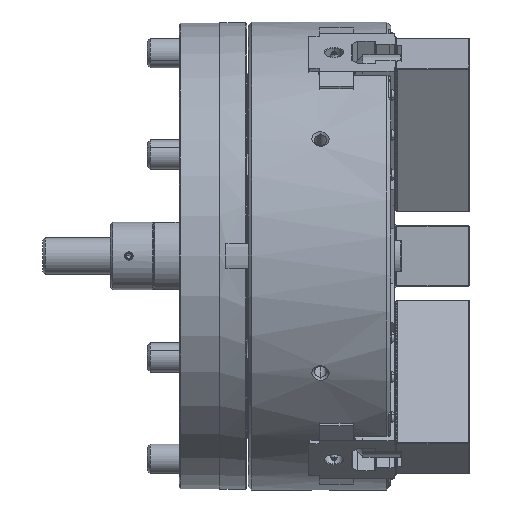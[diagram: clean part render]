
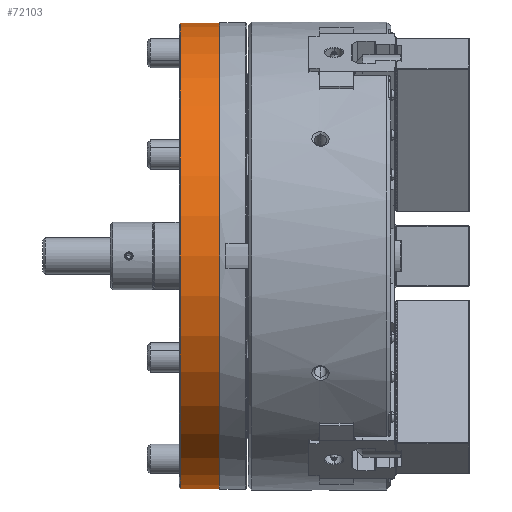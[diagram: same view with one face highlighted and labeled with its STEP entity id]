
A CAD part, front view. The second image highlights one B-rep face of the part: STEP entity #72103.
In plain terms, the highlighted cylindrical face has radius 189.5 mm (diameter 379 mm), a partial arc.
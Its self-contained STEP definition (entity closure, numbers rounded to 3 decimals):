
#17200 = CARTESIAN_POINT ( 'NONE',  ( -171., 0., 189.5 ) ) ;
#20106 = ORIENTED_EDGE ( 'NONE', *, *, #79145, .F. ) ;
#25784 = LINE ( 'NONE', #37049, #150840 ) ;
#26532 = VERTEX_POINT ( 'NONE', #69085 ) ;
#37049 = CARTESIAN_POINT ( 'NONE',  ( -378.898, 0., 189.5 ) ) ;
#39647 = CARTESIAN_POINT ( 'NONE',  ( -171., 0., -189.5 ) ) ;
#39700 = DIRECTION ( 'NONE',  ( -1., 0., 0. ) ) ;
#40715 = EDGE_CURVE ( 'NONE', #26532, #114089, #124936, .T. ) ;
#46124 = DIRECTION ( 'NONE',  ( -1., 0., 0. ) ) ;
#46959 = CARTESIAN_POINT ( 'NONE',  ( -139.5, 0., 0. ) ) ;
#47120 = CYLINDRICAL_SURFACE ( 'NONE', #84588, 189.5 ) ;
#59382 = AXIS2_PLACEMENT_3D ( 'NONE', #130276, #39700, #169933 ) ;
#69085 = CARTESIAN_POINT ( 'NONE',  ( -139.5, 0., -189.5 ) ) ;
#69536 = ORIENTED_EDGE ( 'NONE', *, *, #118615, .F. ) ;
#72103 = ADVANCED_FACE ( 'NONE', ( #148925 ), #47120, .T. ) ;
#73019 = DIRECTION ( 'NONE',  ( -1., 0., 0. ) ) ;
#79145 = EDGE_CURVE ( 'NONE', #26532, #163992, #84427, .T. ) ;
#84427 = LINE ( 'NONE', #136989, #113589 ) ;
#84588 = AXIS2_PLACEMENT_3D ( 'NONE', #124731, #73019, #125602 ) ;
#88220 = EDGE_CURVE ( 'NONE', #114089, #170409, #25784, .T. ) ;
#97926 = DIRECTION ( 'NONE',  ( 0., 0., 1. ) ) ;
#113589 = VECTOR ( 'NONE', #139550, 1000. ) ;
#114089 = VERTEX_POINT ( 'NONE', #139197 ) ;
#118615 = EDGE_CURVE ( 'NONE', #163992, #170409, #125351, .T. ) ;
#118909 = DIRECTION ( 'NONE',  ( -1., 0., 0. ) ) ;
#124731 = CARTESIAN_POINT ( 'NONE',  ( -378.898, 0., 0. ) ) ;
#124936 = CIRCLE ( 'NONE', #127662, 189.5 ) ;
#125351 = CIRCLE ( 'NONE', #59382, 189.5 ) ;
#125602 = DIRECTION ( 'NONE',  ( 0., 0., 1. ) ) ;
#127662 = AXIS2_PLACEMENT_3D ( 'NONE', #46959, #46124, #97926 ) ;
#130276 = CARTESIAN_POINT ( 'NONE',  ( -171., 0., 0. ) ) ;
#136989 = CARTESIAN_POINT ( 'NONE',  ( -378.898, 0., -189.5 ) ) ;
#139197 = CARTESIAN_POINT ( 'NONE',  ( -139.5, 0., 189.5 ) ) ;
#139550 = DIRECTION ( 'NONE',  ( -1., 0., 0. ) ) ;
#148925 = FACE_OUTER_BOUND ( 'NONE', #157067, .T. ) ;
#150840 = VECTOR ( 'NONE', #118909, 1000. ) ;
#154890 = ORIENTED_EDGE ( 'NONE', *, *, #40715, .T. ) ;
#157067 = EDGE_LOOP ( 'NONE', ( #20106, #154890, #164486, #69536 ) ) ;
#163992 = VERTEX_POINT ( 'NONE', #39647 ) ;
#164486 = ORIENTED_EDGE ( 'NONE', *, *, #88220, .T. ) ;
#169933 = DIRECTION ( 'NONE',  ( 0., 0., 1. ) ) ;
#170409 = VERTEX_POINT ( 'NONE', #17200 ) ;
